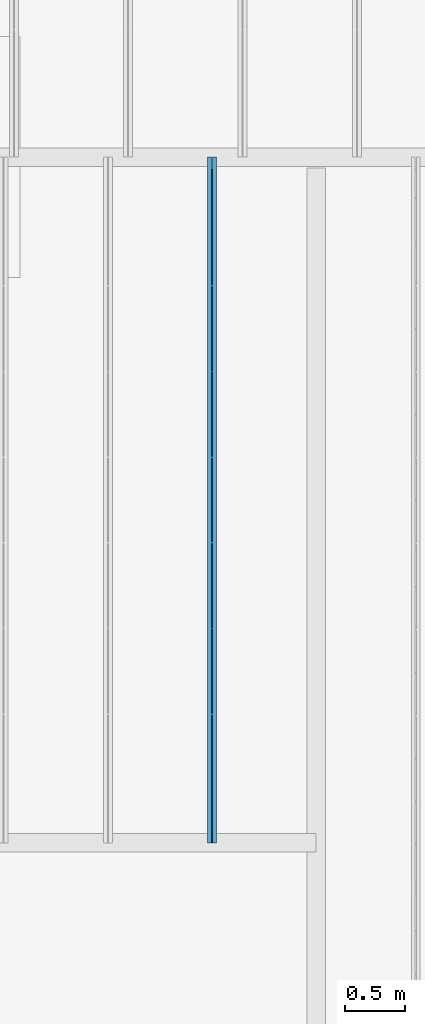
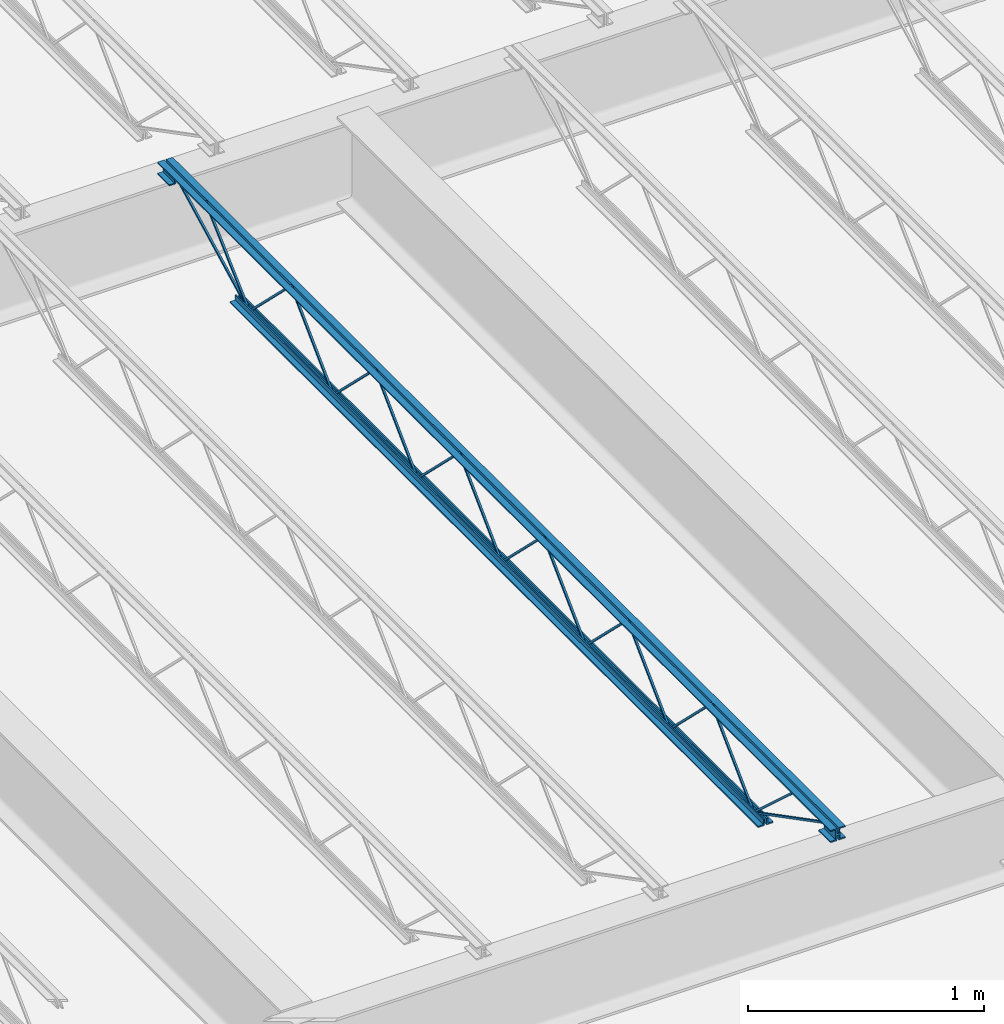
# One storey, part 23 of 75: 1 beam.
"""IFC2X3 building model written with IfcOpenShell, lengths in metres."""

from ifc_helpers import new_model, entity, si_unit, converted_unit, frame, origin, place, context, project, spatial, face_set, surface_model, element, save


model = new_model("IFC2X3")

# Units and contexts
model_context = context("Model", 3, precision=1e-09, world=origin())
plan_context = context("Plan", 3, precision=1e-09, world=origin())
ifc_project = project(units=[si_unit("LENGTHUNIT", "METRE"), si_unit("AREAUNIT", "SQUARE_METRE"), si_unit("VOLUMEUNIT", "CUBIC_METRE"), converted_unit("PLANEANGLEUNIT", "DEGREE", entity("IfcRatioMeasure", 0.01745329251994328), si_unit("PLANEANGLEUNIT", "RADIAN"), dimensions=[0, 0, 0, 0, 0, 0, 0]), si_unit("TIMEUNIT", "SECOND")], contexts=[model_context, plan_context])

# Site, building, storey
site_placement = place(None, origin())
site = spatial("IfcSite", under=ifc_project, at=site_placement, Name="Default", CompositionType="ELEMENT")
building_placement = place(site_placement, origin())
building = spatial("IfcBuilding", under=site, at=building_placement, CompositionType="ELEMENT")
storey_placement = place(building_placement, origin())
storey = spatial("IfcBuildingStorey", under=building, at=storey_placement, Name="First Floor", CompositionType="ELEMENT", Elevation=-3.531500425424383e-13)

# Beam
beam_placement = place(storey_placement, frame((-12.32028784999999, 12.91254609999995, 4.112000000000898)))
element("IfcBeam", 1, at=beam_placement, inside=storey, Name="M_K-Series Bar Joist-Rod Web:14K1:14K1", ObjectType="M_K-Series Bar Joist-Rod Web:14K1", context=model_context, shape_type="SurfaceModel", body=[
    surface_model("IfcFaceBasedSurfaceModel", [(0.04150000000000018, 3.560666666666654, 0.01110000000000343), (0.03200000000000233, 3.560666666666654, 0.01110000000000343), (0.03200000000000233, 3.560666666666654, 0.001600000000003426), (0.04150000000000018, 3.560666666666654, 0.001600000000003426), (0.03200000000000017, 3.561899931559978, 0.01110000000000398), (0.04150000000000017, 3.561899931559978, 0.01110000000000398), (0.03200000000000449, 3.565783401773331, 0.001600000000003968), (0.03200000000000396, 3.915516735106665, 0.3449000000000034), (0.03200000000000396, 3.917983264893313, 0.3449000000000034), (0.03200000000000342, 4.267716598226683, 0.001600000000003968), (0.03200000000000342, 4.272833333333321, 0.001600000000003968), (0.03200000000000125, 4.272833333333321, 0.01110000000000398), (0.03200000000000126, 4.271600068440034, 0.01110000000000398), (0.03200000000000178, 3.921866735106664, 0.3544000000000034), (0.0320000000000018, 3.911633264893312, 0.3544000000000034), (0.04150000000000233, 3.565783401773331, 0.001600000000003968), (0.04149999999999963, 3.915516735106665, 0.3449000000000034), (0.04149999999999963, 3.91798326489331, 0.3449000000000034), (0.0414999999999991, 4.267716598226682, 0.001600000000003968), (0.04149999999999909, 4.272833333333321, 0.001600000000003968), (0.04150000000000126, 4.272833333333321, 0.01110000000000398), (0.04150000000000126, 4.271600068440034, 0.01110000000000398), (0.04150000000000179, 3.921866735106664, 0.3544000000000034), (0.04150000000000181, 3.911633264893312, 0.3544000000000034), (0.04150000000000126, 2.848499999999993, 0.01110000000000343), (0.03200000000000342, 2.848499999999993, 0.01110000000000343), (0.03200000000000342, 2.848499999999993, 0.001600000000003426), (0.04150000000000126, 2.848499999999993, 0.001600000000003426), (0.03200000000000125, 2.849733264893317, 0.01110000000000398), (0.04150000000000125, 2.849733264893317, 0.01110000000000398), (0.03200000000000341, 2.85361673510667, 0.001600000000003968), (0.03200000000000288, 3.203350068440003, 0.3449000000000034), (0.03200000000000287, 3.20581659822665, 0.3449000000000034), (0.03200000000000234, 3.55554993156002, 0.001600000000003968), (0.03200000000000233, 3.560666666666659, 0.001600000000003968), (0.03200000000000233, 3.560666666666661, 0.01110000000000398), (0.03200000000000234, 3.559433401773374, 0.01110000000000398), (0.03200000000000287, 3.209700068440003, 0.3544000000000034), (0.03200000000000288, 3.199466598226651, 0.3544000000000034), (0.04150000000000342, 2.85361673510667, 0.001600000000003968), (0.04150000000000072, 3.203350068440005, 0.3449000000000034), (0.04150000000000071, 3.20581659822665, 0.3449000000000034), (0.04150000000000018, 3.55554993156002, 0.001600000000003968), (0.04150000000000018, 3.560666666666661, 0.001600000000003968), (0.04150000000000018, 3.560666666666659, 0.01110000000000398), (0.04150000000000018, 3.559433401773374, 0.01110000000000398), (0.04150000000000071, 3.209700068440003, 0.3544000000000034), (0.04150000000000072, 3.199466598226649, 0.3544000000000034), (0.04150000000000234, 2.136333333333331, 0.01110000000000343), (0.0320000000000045, 2.136333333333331, 0.01110000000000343), (0.0320000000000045, 2.136333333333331, 0.001600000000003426), (0.04150000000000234, 2.136333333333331, 0.001600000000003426), (0.03200000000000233, 2.137566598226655, 0.01110000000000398), (0.04150000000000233, 2.137566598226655, 0.01110000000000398), (0.03200000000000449, 2.141450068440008, 0.001600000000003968), (0.03200000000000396, 2.491183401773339, 0.3449000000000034), (0.03200000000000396, 2.493649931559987, 0.3449000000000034), (0.03200000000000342, 2.843383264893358, 0.001600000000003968), (0.03200000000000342, 2.848499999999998, 0.001600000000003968), (0.03200000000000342, 2.848499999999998, 0.01110000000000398), (0.03200000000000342, 2.847266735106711, 0.01110000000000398), (0.03200000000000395, 2.49753340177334, 0.3544000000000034), (0.03200000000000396, 2.487299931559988, 0.3544000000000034), (0.0415000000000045, 2.141450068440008, 0.001600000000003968), (0.0415000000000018, 2.491183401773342, 0.3449000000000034), (0.04150000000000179, 2.493649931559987, 0.3449000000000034), (0.04150000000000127, 2.843383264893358, 0.001600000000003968), (0.04150000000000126, 2.848499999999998, 0.001600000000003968), (0.04150000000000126, 2.848499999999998, 0.01110000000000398), (0.04150000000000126, 2.847266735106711, 0.01110000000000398), (0.04150000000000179, 2.49753340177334, 0.3544000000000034), (0.0415000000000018, 2.487299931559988, 0.3544000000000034), (0.04150000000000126, 1.424166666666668, 0.01110000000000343), (0.03200000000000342, 1.424166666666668, 0.01110000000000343), (0.03200000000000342, 1.424166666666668, 0.001600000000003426), (0.04150000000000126, 1.424166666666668, 0.001600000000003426), (0.03200000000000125, 1.425399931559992, 0.01110000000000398), (0.04150000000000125, 1.425399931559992, 0.01110000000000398), (0.03200000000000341, 1.429283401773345, 0.001600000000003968), (0.03200000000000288, 1.779016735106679, 0.3449000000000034), (0.03200000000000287, 1.781483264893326, 0.3449000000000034), (0.03200000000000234, 2.131216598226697, 0.001600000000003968), (0.0320000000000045, 2.136333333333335, 0.001600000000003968), (0.03200000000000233, 2.136333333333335, 0.01110000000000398), (0.03200000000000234, 2.135100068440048, 0.01110000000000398), (0.03200000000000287, 1.785366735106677, 0.3544000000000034), (0.03200000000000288, 1.775133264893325, 0.3544000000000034), (0.04150000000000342, 1.429283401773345, 0.001600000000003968), (0.04150000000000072, 1.779016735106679, 0.3449000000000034), (0.04150000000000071, 1.781483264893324, 0.3449000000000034), (0.04150000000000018, 2.131216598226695, 0.001600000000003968), (0.04150000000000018, 2.136333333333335, 0.001600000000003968), (0.04150000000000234, 2.136333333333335, 0.01110000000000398), (0.04150000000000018, 2.135100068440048, 0.01110000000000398), (0.04150000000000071, 1.78536673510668, 0.3544000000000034), (0.04150000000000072, 1.775133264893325, 0.3544000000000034), (0.04149999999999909, 4.272833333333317, 0.01109999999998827), (0.03200000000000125, 4.272833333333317, 0.01109999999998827), (0.03200000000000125, 4.272833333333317, 0.001599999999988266), (0.04149999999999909, 4.272833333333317, 0.001599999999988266), (0.03199999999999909, 4.274066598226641, 0.01109999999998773), (0.04149999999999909, 4.274066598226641, 0.01109999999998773), (0.03199999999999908, 4.277950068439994, 0.001599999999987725), (0.03199999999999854, 4.627683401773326, 0.3448999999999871), (0.03199999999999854, 4.630149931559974, 0.3448999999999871), (0.03199999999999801, 4.979883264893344, 0.001599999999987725), (0.03200000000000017, 4.984999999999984, 0.001599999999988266), (0.031999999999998, 4.984999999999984, 0.01109999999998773), (0.031999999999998, 4.983766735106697, 0.01109999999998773), (0.03199999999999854, 4.634033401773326, 0.3543999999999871), (0.03199999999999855, 4.623799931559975, 0.3543999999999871), (0.04149999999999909, 4.277950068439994, 0.001599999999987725), (0.04149999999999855, 4.627683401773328, 0.3448999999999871), (0.04149999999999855, 4.630149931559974, 0.3448999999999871), (0.04149999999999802, 4.979883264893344, 0.001599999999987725), (0.04149999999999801, 4.984999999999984, 0.001599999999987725), (0.04149999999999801, 4.984999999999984, 0.01109999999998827), (0.04149999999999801, 4.983766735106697, 0.01109999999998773), (0.04149999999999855, 4.634033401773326, 0.3543999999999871), (0.04149999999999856, 4.623799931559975, 0.3543999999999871), (0.04150000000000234, 0.7120000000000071, 0.01110000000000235), (0.0320000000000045, 0.7120000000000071, 0.01110000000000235), (0.0320000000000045, 0.7120000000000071, 0.001600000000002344), (0.04150000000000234, 0.7120000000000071, 0.001600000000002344), (0.03200000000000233, 0.7132332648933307, 0.01110000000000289), (0.04150000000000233, 0.7132332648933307, 0.01110000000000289), (0.03200000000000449, 0.717116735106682, 0.001600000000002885), (0.03200000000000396, 1.066850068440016, 0.3449000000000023), (0.03200000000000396, 1.069316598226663, 0.3449000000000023), (0.03200000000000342, 1.419049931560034, 0.001600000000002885), (0.03200000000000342, 1.424166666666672, 0.001600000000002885), (0.03200000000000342, 1.424166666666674, 0.01110000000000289), (0.03200000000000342, 1.422933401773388, 0.01110000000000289), (0.03200000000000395, 1.073200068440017, 0.3544000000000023), (0.03200000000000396, 1.062966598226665, 0.3544000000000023), (0.0415000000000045, 0.7171167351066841, 0.001600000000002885), (0.0415000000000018, 1.066850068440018, 0.3449000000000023), (0.04150000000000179, 1.069316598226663, 0.3449000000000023), (0.04150000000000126, 1.419049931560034, 0.001600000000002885), (0.04150000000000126, 1.424166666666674, 0.001600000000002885), (0.04150000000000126, 1.424166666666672, 0.01110000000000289), (0.04150000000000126, 1.422933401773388, 0.01110000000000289), (0.04150000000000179, 1.073200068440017, 0.3544000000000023), (0.0415000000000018, 1.062966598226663, 0.3544000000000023), (0.03200000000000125, 5.697, 0.3559999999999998), (0.0, 5.697, 0.3559999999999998), (0.0, 5.697, 0.349499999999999), (0.02550000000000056, 5.697, 0.349499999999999), (0.02550000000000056, 5.697, 0.3239999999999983), (0.03200000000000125, 5.697, 0.3239999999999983), (0.04150000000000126, 5.697, 0.3559999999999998), (0.04150000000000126, 5.697, 0.3239999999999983), (0.04800000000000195, 5.697, 0.3239999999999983), (0.04800000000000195, 5.697, 0.349499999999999), (0.07350000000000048, 5.697, 0.349499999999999), (0.07350000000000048, 5.697, 0.3559999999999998), (0.03200000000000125, 0.0, 0.3559999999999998), (0.0, 0.0, 0.3559999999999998), (0.0, 0.0, 0.349499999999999), (0.02550000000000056, 0.0, 0.349499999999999), (0.02550000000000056, 0.0, 0.3239999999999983), (0.03200000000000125, 0.0, 0.3239999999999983), (0.04150000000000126, 0.0, 0.3559999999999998), (0.04150000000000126, 0.0, 0.3239999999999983), (0.04800000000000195, 0.0, 0.3239999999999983), (0.04800000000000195, 0.0, 0.349499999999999), (0.07350000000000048, 0.0, 0.349499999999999), (0.07350000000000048, 0.0, 0.3559999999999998), (0.04150000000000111, 0.0999999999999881, 0.2924999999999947), (0.07350000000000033, 0.0999999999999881, 0.2924999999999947), (0.07350000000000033, 0.0999999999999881, 0.2989999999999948), (0.0480000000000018, 0.0999999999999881, 0.2989999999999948), (0.0480000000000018, 0.0999999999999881, 0.3239999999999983), (0.04150000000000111, 0.0999999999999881, 0.3239999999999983), (0.0, 0.0999999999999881, 0.2924999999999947), (0.0320000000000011, 0.0999999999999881, 0.2924999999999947), (0.0320000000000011, 0.0999999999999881, 0.3239999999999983), (0.02550000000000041, 0.0999999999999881, 0.3239999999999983), (0.02550000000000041, 0.0999999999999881, 0.2989999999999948), (0.0, 0.0999999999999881, 0.2989999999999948), (0.04150000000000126, 0.0, 0.2924999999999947), (0.07350000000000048, 0.0, 0.2924999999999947), (0.07350000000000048, 0.0, 0.2989999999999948), (0.04800000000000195, 0.0, 0.2989999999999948), (0.0, 0.0, 0.2924999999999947), (0.03200000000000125, 0.0, 0.2924999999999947), (0.02550000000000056, 0.0, 0.2989999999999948), (0.0, 0.0, 0.2989999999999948), (0.03200000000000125, 5.697, 0.2924999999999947), (0.02550000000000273, 5.697, 0.3239999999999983), (0.02550000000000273, 5.697, 0.2989999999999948), (0.0, 5.697, 0.2989999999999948), (0.0, 5.697, 0.2924999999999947), (0.04150000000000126, 5.697, 0.2924999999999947), (0.07350000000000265, 5.697, 0.2924999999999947), (0.07350000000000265, 5.697, 0.2989999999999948), (0.04800000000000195, 5.697, 0.2989999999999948), (0.0320000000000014, 5.597000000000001, 0.2924999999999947), (0.0320000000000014, 5.597000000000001, 0.3239999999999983), (0.02550000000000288, 5.597000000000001, 0.3239999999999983), (0.02550000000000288, 5.597000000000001, 0.2989999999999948), (0.0, 5.597000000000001, 0.2989999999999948), (0.0, 5.597000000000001, 0.2924999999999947), (0.04150000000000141, 5.597000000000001, 0.2924999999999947), (0.0735000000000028, 5.597000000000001, 0.2924999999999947), (0.0735000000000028, 5.597000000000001, 0.2989999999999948), (0.0480000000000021, 5.597000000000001, 0.2989999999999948), (0.0480000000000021, 5.597000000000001, 0.3239999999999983), (0.04150000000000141, 5.597000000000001, 0.3239999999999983), (0.03200000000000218, 5.085000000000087, 0.0), (0.03200000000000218, 5.085000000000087, 0.03199999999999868), (0.02550000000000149, 5.085000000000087, 0.03199999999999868), (0.02550000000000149, 5.085000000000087, 0.006499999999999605), (0.0, 5.085000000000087, 0.006499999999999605), (0.0, 5.085000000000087, 0.0), (0.04150000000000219, 5.085000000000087, 0.0), (0.07350000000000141, 5.085000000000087, 0.0), (0.07350000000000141, 5.085000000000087, 0.006499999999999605), (0.04800000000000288, 5.085000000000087, 0.006499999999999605), (0.04800000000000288, 5.085000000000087, 0.03199999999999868), (0.04150000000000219, 5.085000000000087, 0.03199999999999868), (0.03200000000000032, 0.6120000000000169, 0.0), (0.03200000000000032, 0.6120000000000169, 0.03199999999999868), (0.02549999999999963, 0.6120000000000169, 0.03199999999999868), (0.02549999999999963, 0.6120000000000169, 0.006499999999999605), (0.0, 0.6120000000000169, 0.006499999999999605), (0.0, 0.6120000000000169, 0.0), (0.04150000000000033, 0.6120000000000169, 0.0), (0.07349999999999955, 0.6120000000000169, 0.0), (0.07349999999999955, 0.6120000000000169, 0.006499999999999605), (0.04800000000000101, 0.6120000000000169, 0.006499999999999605), (0.04800000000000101, 0.6120000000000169, 0.03199999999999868), (0.04150000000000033, 0.6120000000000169, 0.03199999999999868), (0.0415000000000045, 0.7141882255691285, 0.01056594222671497), (0.03200000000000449, 0.7141882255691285, 0.01056594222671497), (0.0320000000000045, 0.7098117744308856, 0.002134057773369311), (0.04150000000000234, 0.7098117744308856, 0.002134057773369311), (0.04150000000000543, 0.1011592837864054, 0.3287499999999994), (0.04150000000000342, 0.0, 0.3287499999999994), (0.04150000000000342, 0.0, 0.3192499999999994), (0.04150000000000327, 0.09884071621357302, 0.3192499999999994), (0.03200000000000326, 0.09884071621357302, 0.3192499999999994), (0.03200000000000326, 0.1011592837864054, 0.3287499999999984), (0.03200000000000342, 0.0, 0.3287499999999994), (0.03200000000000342, 0.0, 0.3192499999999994), (0.04150000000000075, 0.3359595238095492, 0.341700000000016), (0.0320000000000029, 0.3359595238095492, 0.341700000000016), (0.0320000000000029, 0.3359595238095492, 0.332200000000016), (0.04150000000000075, 0.3359595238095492, 0.332200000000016), (0.03200000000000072, 0.3504971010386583, 0.341700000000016), (0.04150000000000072, 0.3504971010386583, 0.341700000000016), (0.03200000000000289, 0.3468219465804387, 0.3322000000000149), (0.0320000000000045, 0.7088032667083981, 0.002836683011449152), (0.03200000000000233, 0.7151967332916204, 0.009863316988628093), (0.04150000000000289, 0.3468219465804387, 0.332200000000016), (0.04150000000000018, 0.7088032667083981, 0.002836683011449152), (0.0415000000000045, 0.7151967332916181, 0.009863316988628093), (0.04150000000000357, 5.599188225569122, 0.3197840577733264), (0.04150000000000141, 5.594811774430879, 0.3282159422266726), (0.0320000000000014, 5.594811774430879, 0.3282159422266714), (0.03200000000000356, 5.599188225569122, 0.3197840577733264), (0.04150000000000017, 4.987188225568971, 0.002134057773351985), (0.04150000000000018, 4.982811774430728, 0.01056594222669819), (0.03200000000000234, 4.982811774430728, 0.01056594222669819), (0.03200000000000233, 4.987188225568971, 0.002134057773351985), (0.04150000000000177, 5.358825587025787, 0.3461653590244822), (0.04150000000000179, 5.352369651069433, 0.3531346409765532), (0.03200000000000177, 5.352369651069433, 0.3531346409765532), (0.03200000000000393, 5.358825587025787, 0.3461653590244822), (0.04150000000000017, 4.988227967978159, 0.002865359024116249), (0.04150000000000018, 4.981772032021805, 0.009834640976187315), (0.03200000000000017, 4.981772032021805, 0.009834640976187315), (0.03200000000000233, 4.988227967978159, 0.002865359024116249)], [face_set([[[0, 1, 2, 3]], [[1, 4, 5, 0]], [[2, 6, 7, 8, 9, 10, 11, 12, 13, 14, 4, 1]], [[3, 2, 6, 15]], [[0, 3, 15, 16, 17, 18, 19, 20, 21, 22, 23, 5]], [[4, 5, 23, 14]], [[15, 16, 7, 6]], [[14, 13, 22, 23]], [[16, 7, 8, 17]], [[13, 12, 21, 22]], [[17, 8, 9, 18]], [[20, 11, 10, 19]], [[12, 11, 20, 21]], [[18, 9, 10, 19]]]), face_set([[[24, 25, 26, 27]], [[25, 28, 29, 24]], [[26, 30, 31, 32, 33, 34, 35, 36, 37, 38, 28, 25]], [[27, 26, 30, 39]], [[24, 27, 39, 40, 41, 42, 43, 44, 45, 46, 47, 29]], [[28, 29, 47, 38]], [[39, 40, 31, 30]], [[38, 37, 46, 47]], [[40, 31, 32, 41]], [[37, 36, 45, 46]], [[41, 32, 33, 42]], [[44, 35, 34, 43]], [[36, 35, 44, 45]], [[42, 33, 34, 43]]]), face_set([[[48, 49, 50, 51]], [[49, 52, 53, 48]], [[50, 54, 55, 56, 57, 58, 59, 60, 61, 62, 52, 49]], [[51, 50, 54, 63]], [[48, 51, 63, 64, 65, 66, 67, 68, 69, 70, 71, 53]], [[52, 53, 71, 62]], [[63, 64, 55, 54]], [[62, 61, 70, 71]], [[64, 55, 56, 65]], [[61, 60, 69, 70]], [[65, 56, 57, 66]], [[68, 59, 58, 67]], [[60, 59, 68, 69]], [[66, 57, 58, 67]]]), face_set([[[72, 73, 74, 75]], [[73, 76, 77, 72]], [[74, 78, 79, 80, 81, 82, 83, 84, 85, 86, 76, 73]], [[75, 74, 78, 87]], [[72, 75, 87, 88, 89, 90, 91, 92, 93, 94, 95, 77]], [[76, 77, 95, 86]], [[87, 88, 79, 78]], [[86, 85, 94, 95]], [[88, 79, 80, 89]], [[85, 84, 93, 94]], [[89, 80, 81, 90]], [[92, 83, 82, 91]], [[84, 83, 92, 93]], [[90, 81, 82, 91]]]), face_set([[[96, 97, 98, 99]], [[97, 100, 101, 96]], [[98, 102, 103, 104, 105, 106, 107, 108, 109, 110, 100, 97]], [[99, 98, 102, 111]], [[96, 99, 111, 112, 113, 114, 115, 116, 117, 118, 119, 101]], [[100, 101, 119, 110]], [[111, 112, 103, 102]], [[110, 109, 118, 119]], [[112, 103, 104, 113]], [[109, 108, 117, 118]], [[113, 104, 105, 114]], [[116, 107, 106, 115]], [[108, 107, 116, 117]], [[114, 105, 106, 115]]]), face_set([[[120, 121, 122, 123]], [[121, 124, 125, 120]], [[122, 126, 127, 128, 129, 130, 131, 132, 133, 134, 124, 121]], [[123, 122, 126, 135]], [[120, 123, 135, 136, 137, 138, 139, 140, 141, 142, 143, 125]], [[124, 125, 143, 134]], [[135, 136, 127, 126]], [[134, 133, 142, 143]], [[136, 127, 128, 137]], [[133, 132, 141, 142]], [[137, 128, 129, 138]], [[140, 131, 130, 139]], [[132, 131, 140, 141]], [[138, 129, 130, 139]]]), face_set([[[144, 145, 146, 147, 148, 149]], [[150, 151, 152, 153, 154, 155]], [[156, 157, 158, 159, 160, 161]], [[162, 163, 164, 165, 166, 167]], [[149, 144, 156, 161]], [[148, 149, 161, 160]], [[147, 159, 160, 148]], [[146, 147, 159, 158]], [[145, 157, 158, 146]], [[144, 156, 157, 145]], [[155, 167, 162, 150]], [[154, 155, 167, 166]], [[153, 154, 166, 165]], [[152, 153, 165, 164]], [[151, 152, 164, 163]], [[150, 162, 163, 151]]]), face_set([[[168, 169, 170, 171, 172, 173]], [[174, 175, 176, 177, 178, 179]], [[180, 181, 182, 183, 164, 163]], [[184, 185, 161, 160, 186, 187]], [[173, 163, 180, 168]], [[172, 164, 163, 173]], [[171, 172, 164, 183]], [[170, 182, 183, 171]], [[169, 170, 182, 181]], [[168, 169, 181, 180]], [[179, 187, 184, 174]], [[178, 186, 187, 179]], [[177, 160, 186, 178]], [[176, 161, 160, 177]], [[175, 176, 161, 185]], [[174, 175, 185, 184]]]), face_set([[[188, 149, 189, 190, 191, 192]], [[193, 194, 195, 196, 152, 151]], [[197, 198, 199, 200, 201, 202]], [[203, 204, 205, 206, 207, 208]], [[192, 188, 197, 202]], [[191, 201, 202, 192]], [[190, 200, 201, 191]], [[189, 199, 200, 190]], [[149, 198, 199, 189]], [[188, 149, 198, 197]], [[151, 208, 203, 193]], [[152, 207, 208, 151]], [[196, 152, 207, 206]], [[195, 205, 206, 196]], [[194, 195, 205, 204]], [[193, 194, 204, 203]]]), face_set([[[209, 210, 211, 212, 213, 214]], [[215, 216, 217, 218, 219, 220]], [[221, 222, 223, 224, 225, 226]], [[227, 228, 229, 230, 231, 232]], [[214, 209, 221, 226]], [[213, 225, 226, 214]], [[212, 224, 225, 213]], [[211, 223, 224, 212]], [[210, 222, 223, 211]], [[209, 210, 222, 221]], [[220, 232, 227, 215]], [[219, 231, 232, 220]], [[218, 219, 231, 230]], [[217, 229, 230, 218]], [[216, 217, 229, 228]], [[215, 216, 228, 227]]]), face_set([[[233, 234, 235, 236]], [[236, 233, 237, 238, 239, 240]], [[235, 236, 240, 241]], [[234, 242, 243, 244, 241, 235]], [[233, 237, 242, 234]], [[238, 243, 244, 239]], [[241, 240, 239, 244]], [[237, 238, 243, 242]]]), face_set([[[245, 246, 247, 248]], [[246, 249, 250, 245]], [[247, 251, 252, 253, 249, 246]], [[248, 247, 251, 254]], [[245, 248, 254, 255, 256, 250]], [[256, 253, 252, 255]], [[249, 253, 256, 250]], [[254, 251, 252, 255]]]), face_set([[[257, 258, 259, 260]], [[261, 262, 263, 264]], [[260, 264, 261, 257]], [[259, 263, 264, 260]], [[258, 259, 263, 262]], [[257, 258, 262, 261]]]), face_set([[[265, 266, 267, 268]], [[269, 270, 271, 272]], [[268, 272, 269, 265]], [[267, 271, 272, 268]], [[266, 267, 271, 270]], [[265, 266, 270, 269]]])]),
])

save(model, "model.ifc")
